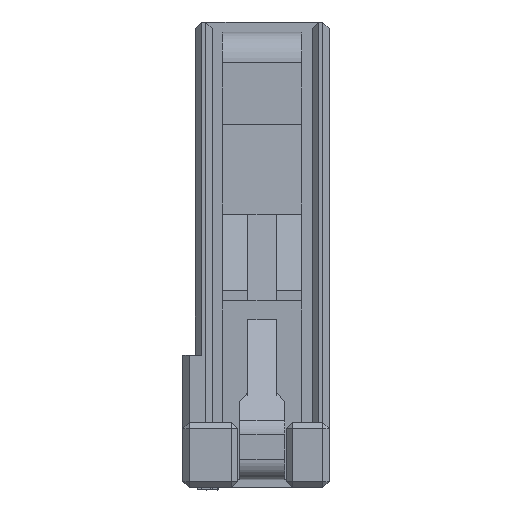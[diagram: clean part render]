
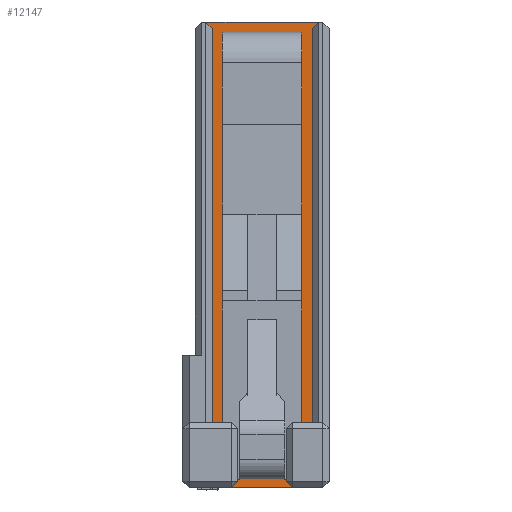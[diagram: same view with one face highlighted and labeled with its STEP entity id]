
A CAD part, left-side view. The second image highlights one B-rep face of the part: STEP entity #12147.
In plain terms, the highlighted planar face has unit normal (-1, 0, 0).
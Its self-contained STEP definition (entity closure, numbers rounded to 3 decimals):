
#46 = VECTOR ( 'NONE', #8949, 1000. ) ;
#214 = DIRECTION ( 'NONE',  ( 0., 0., -1. ) ) ;
#401 = CARTESIAN_POINT ( 'NONE',  ( -9.91, 2.45, -0.3 ) ) ;
#758 = DIRECTION ( 'NONE',  ( 0., -0.707, -0.707 ) ) ;
#789 = DIRECTION ( 'NONE',  ( 0., -1., 0. ) ) ;
#1663 = LINE ( 'NONE', #20776, #46 ) ;
#1698 = EDGE_CURVE ( 'NONE', #9763, #19273, #12045, .T. ) ;
#1831 = CARTESIAN_POINT ( 'NONE',  ( -9.91, 2.75, 0. ) ) ;
#2145 = CARTESIAN_POINT ( 'NONE',  ( -9.91, -24.028, -22.4 ) ) ;
#2275 = ORIENTED_EDGE ( 'NONE', *, *, #11035, .T. ) ;
#3061 = VECTOR ( 'NONE', #12735, 1000. ) ;
#3185 = LINE ( 'NONE', #6847, #15829 ) ;
#3825 = EDGE_CURVE ( 'NONE', #12158, #11142, #18700, .T. ) ;
#4002 = CARTESIAN_POINT ( 'NONE',  ( -9.91, 2.45, -22.8 ) ) ;
#4236 = CARTESIAN_POINT ( 'NONE',  ( -9.91, -1.95, -22.4 ) ) ;
#4745 = CARTESIAN_POINT ( 'NONE',  ( -9.91, 1.95, -22.4 ) ) ;
#5127 = CARTESIAN_POINT ( 'NONE',  ( -9.91, -2.45, -22.8 ) ) ;
#5342 = DIRECTION ( 'NONE',  ( 0., 0., 1. ) ) ;
#5447 = DIRECTION ( 'NONE',  ( 0., 1., 0. ) ) ;
#5854 = LINE ( 'NONE', #10985, #22073 ) ;
#6212 = VERTEX_POINT ( 'NONE', #4236 ) ;
#6249 = VECTOR ( 'NONE', #21664, 1000. ) ;
#6709 = DIRECTION ( 'NONE',  ( 0., 0., -1. ) ) ;
#6847 = CARTESIAN_POINT ( 'NONE',  ( -9.91, -2.45, -22.8 ) ) ;
#7981 = VECTOR ( 'NONE', #214, 1000. ) ;
#8178 = LINE ( 'NONE', #8732, #3061 ) ;
#8592 = FACE_BOUND ( 'NONE', #15968, .T. ) ;
#8732 = CARTESIAN_POINT ( 'NONE',  ( -9.91, -2.45, -22.8 ) ) ;
#8782 = CARTESIAN_POINT ( 'NONE',  ( -9.91, 1.95, -0.5 ) ) ;
#8850 = CARTESIAN_POINT ( 'NONE',  ( -9.91, -2.45, 0. ) ) ;
#8925 = ORIENTED_EDGE ( 'NONE', *, *, #1698, .F. ) ;
#8949 = DIRECTION ( 'NONE',  ( 0., 0., 1. ) ) ;
#9068 = CARTESIAN_POINT ( 'NONE',  ( -9.91, -2.45, -22.8 ) ) ;
#9140 = CARTESIAN_POINT ( 'NONE',  ( -9.91, -1.95, -0.5 ) ) ;
#9443 = CARTESIAN_POINT ( 'NONE',  ( -9.91, 1.95, -0.5 ) ) ;
#9694 = ORIENTED_EDGE ( 'NONE', *, *, #18377, .F. ) ;
#9763 = VERTEX_POINT ( 'NONE', #18462 ) ;
#10227 = FACE_OUTER_BOUND ( 'NONE', #16267, .T. ) ;
#10357 = VECTOR ( 'NONE', #6709, 1000. ) ;
#10446 = VERTEX_POINT ( 'NONE', #10942 ) ;
#10794 = DIRECTION ( 'NONE',  ( 1., 0., 0. ) ) ;
#10942 = CARTESIAN_POINT ( 'NONE',  ( -9.91, -2.45, -0.3 ) ) ;
#10985 = CARTESIAN_POINT ( 'NONE',  ( -9.91, -11.25, -14. ) ) ;
#11035 = EDGE_CURVE ( 'NONE', #16127, #10446, #3185, .T. ) ;
#11142 = VERTEX_POINT ( 'NONE', #1831 ) ;
#11392 = LINE ( 'NONE', #12937, #6249 ) ;
#12045 = LINE ( 'NONE', #8782, #7981 ) ;
#12136 = ORIENTED_EDGE ( 'NONE', *, *, #15513, .T. ) ;
#12147 = ADVANCED_FACE ( 'NONE', ( #10227, #8592 ), #19463, .F. ) ;
#12158 = VERTEX_POINT ( 'NONE', #21343 ) ;
#12165 = VERTEX_POINT ( 'NONE', #9140 ) ;
#12691 = DIRECTION ( 'NONE',  ( 0., 0., -1. ) ) ;
#12735 = DIRECTION ( 'NONE',  ( 0., 1., 0. ) ) ;
#12797 = LINE ( 'NONE', #15330, #10357 ) ;
#12871 = EDGE_CURVE ( 'NONE', #11142, #14369, #5854, .T. ) ;
#12937 = CARTESIAN_POINT ( 'NONE',  ( -9.91, 8.8, -11.55 ) ) ;
#13369 = LINE ( 'NONE', #9443, #16589 ) ;
#14369 = VERTEX_POINT ( 'NONE', #401 ) ;
#14687 = ORIENTED_EDGE ( 'NONE', *, *, #17226, .T. ) ;
#14965 = LINE ( 'NONE', #2145, #16861 ) ;
#15330 = CARTESIAN_POINT ( 'NONE',  ( -9.91, -1.95, -0.5 ) ) ;
#15513 = EDGE_CURVE ( 'NONE', #6212, #19273, #14965, .T. ) ;
#15565 = EDGE_CURVE ( 'NONE', #9763, #12165, #13369, .T. ) ;
#15703 = ORIENTED_EDGE ( 'NONE', *, *, #3825, .T. ) ;
#15829 = VECTOR ( 'NONE', #5342, 1000. ) ;
#15968 = EDGE_LOOP ( 'NONE', ( #12136, #8925, #21073, #21357 ) ) ;
#16127 = VERTEX_POINT ( 'NONE', #5127 ) ;
#16261 = ORIENTED_EDGE ( 'NONE', *, *, #12871, .T. ) ;
#16267 = EDGE_LOOP ( 'NONE', ( #15703, #16261, #9694, #22208, #2275, #14687 ) ) ;
#16589 = VECTOR ( 'NONE', #789, 1000. ) ;
#16671 = EDGE_CURVE ( 'NONE', #16127, #20581, #8178, .T. ) ;
#16798 = VECTOR ( 'NONE', #19179, 1000. ) ;
#16861 = VECTOR ( 'NONE', #5447, 1000. ) ;
#17226 = EDGE_CURVE ( 'NONE', #10446, #12158, #11392, .T. ) ;
#18377 = EDGE_CURVE ( 'NONE', #20581, #14369, #1663, .T. ) ;
#18462 = CARTESIAN_POINT ( 'NONE',  ( -9.91, 1.95, -0.5 ) ) ;
#18700 = LINE ( 'NONE', #8850, #16798 ) ;
#19179 = DIRECTION ( 'NONE',  ( 0., 1., 0. ) ) ;
#19273 = VERTEX_POINT ( 'NONE', #4745 ) ;
#19463 = PLANE ( 'NONE',  #19590 ) ;
#19590 = AXIS2_PLACEMENT_3D ( 'NONE', #9068, #10794, #12691 ) ;
#20581 = VERTEX_POINT ( 'NONE', #4002 ) ;
#20776 = CARTESIAN_POINT ( 'NONE',  ( -9.91, 2.45, -22.8 ) ) ;
#21073 = ORIENTED_EDGE ( 'NONE', *, *, #15565, .T. ) ;
#21343 = CARTESIAN_POINT ( 'NONE',  ( -9.91, -2.75, 0. ) ) ;
#21357 = ORIENTED_EDGE ( 'NONE', *, *, #21964, .T. ) ;
#21664 = DIRECTION ( 'NONE',  ( 0., -0.707, 0.707 ) ) ;
#21964 = EDGE_CURVE ( 'NONE', #12165, #6212, #12797, .T. ) ;
#22073 = VECTOR ( 'NONE', #758, 1000. ) ;
#22208 = ORIENTED_EDGE ( 'NONE', *, *, #16671, .F. ) ;
